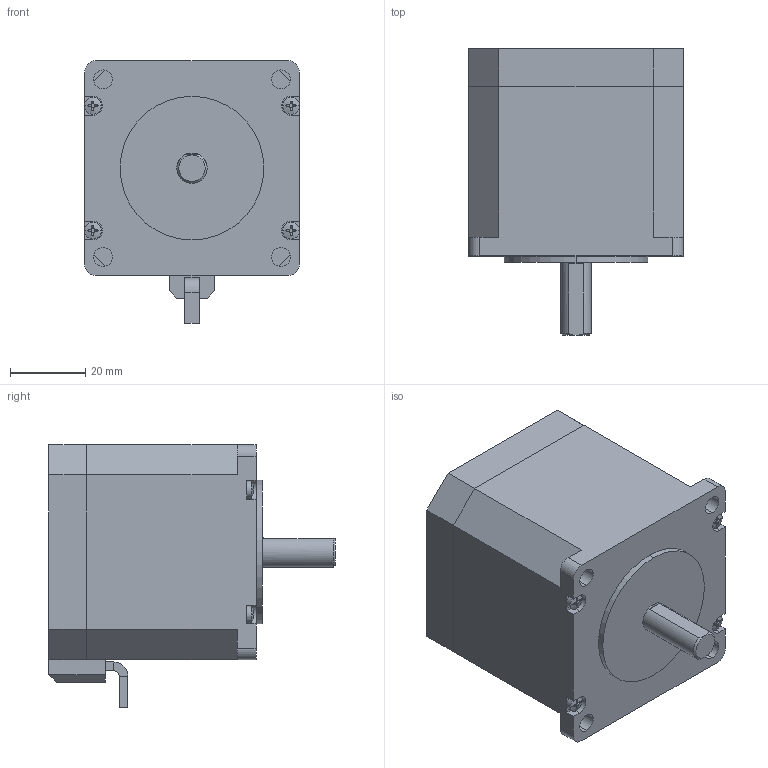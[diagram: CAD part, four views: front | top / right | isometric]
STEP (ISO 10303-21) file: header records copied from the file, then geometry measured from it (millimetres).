
FILE_DESCRIPTION (( 'STEP AP203' ), '1' );
FILE_NAME ('57BG55 贝格达、前径8长21扁19厚7.5、电缆线0.5m.STEP', '2024-10-13T14:15:56', ( '' ), ( '' ), 'SwSTEP 2.0', 'SolidWorks 2022', '' );
FILE_SCHEMA (( 'CONFIG_CONTROL_DESIGN' ));
Length unit declared in the file: millimetre
Products named in the file (1): 57BG55    贝格达、前径8长21扁19厚7.5、电缆线0.5m
Bounding box: 57.04 x 76 x 69.65 mm (x, y, z)
Volume: 175757.8 mm3; surface area: 26434.3 mm2
Topology: 6 solids, 6 shells, 188 faces, 481 edges, 316 vertices
Faces by surface type: plane 124, cylinder 54, sphere 8, cone 2
Entity records: 5844 total; most frequent: CARTESIAN_POINT 1174, DIRECTION 977, ORIENTED_EDGE 962, EDGE_CURVE 481, AXIS2_PLACEMENT_3D 357, VERTEX_POINT 316, LINE 263, VECTOR 263
